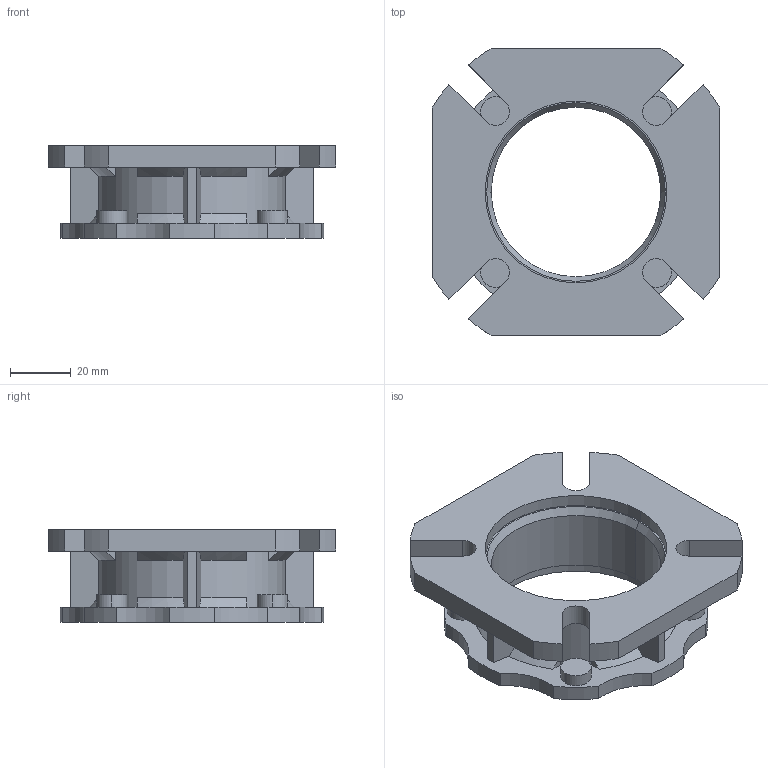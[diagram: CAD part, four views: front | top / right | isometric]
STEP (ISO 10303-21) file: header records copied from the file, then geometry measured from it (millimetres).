
FILE_DESCRIPTION(/* description */ (''),/* implementation_level */ '2;1');
FILE_NAME(/* name */ '2_FLAGIA (CAMPANA) LATERALE FA NMRV040',/* time_stamp */ '2025-10-09T14:22:05+02:00',/* author */ (''),/* organization */ (''),/* preprocessor_version */ 'ST-DEVELOPER v19.2',/* originating_system */ 'Rhino 8.23',/* authorisation */ '');
FILE_SCHEMA (('CONFIG_CONTROL_DESIGN'));
Length unit declared in the file: millimetre
Products named in the file (2): Document; FU 40FA
Bounding box: 95 x 95 x 30.5 mm (x, y, z)
Volume: 64196.5 mm3; surface area: 30077.8 mm2
Topology: 1 solids, 1 shells, 117 faces, 316 edges, 210 vertices
Faces by surface type: plane 51, cylinder 48, bspline 18
Entity records: 5232 total; most frequent: CARTESIAN_POINT 1447, ORIENTED_EDGE 632, DIRECTION 367, EDGE_CURVE 316, AXIS2_PLACEMENT_3D 233, VERTEX_POINT 210, B_SPLINE_CURVE_WITH_KNOTS 186, TRIMMED_CURVE 130
